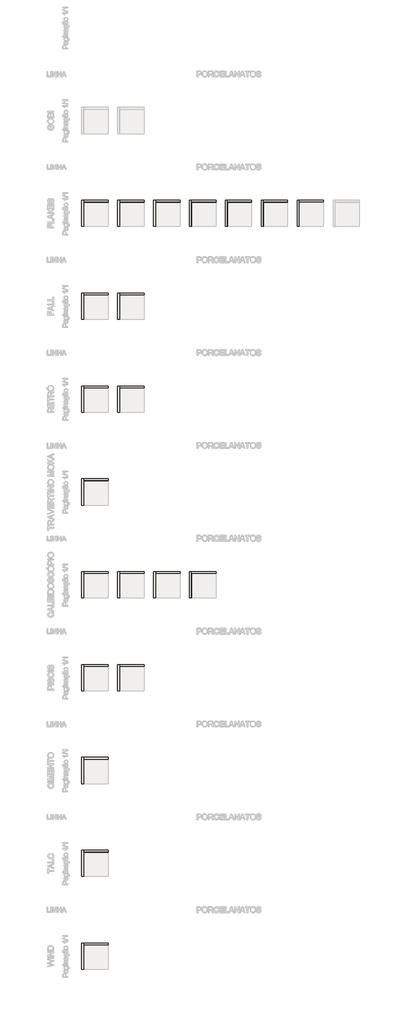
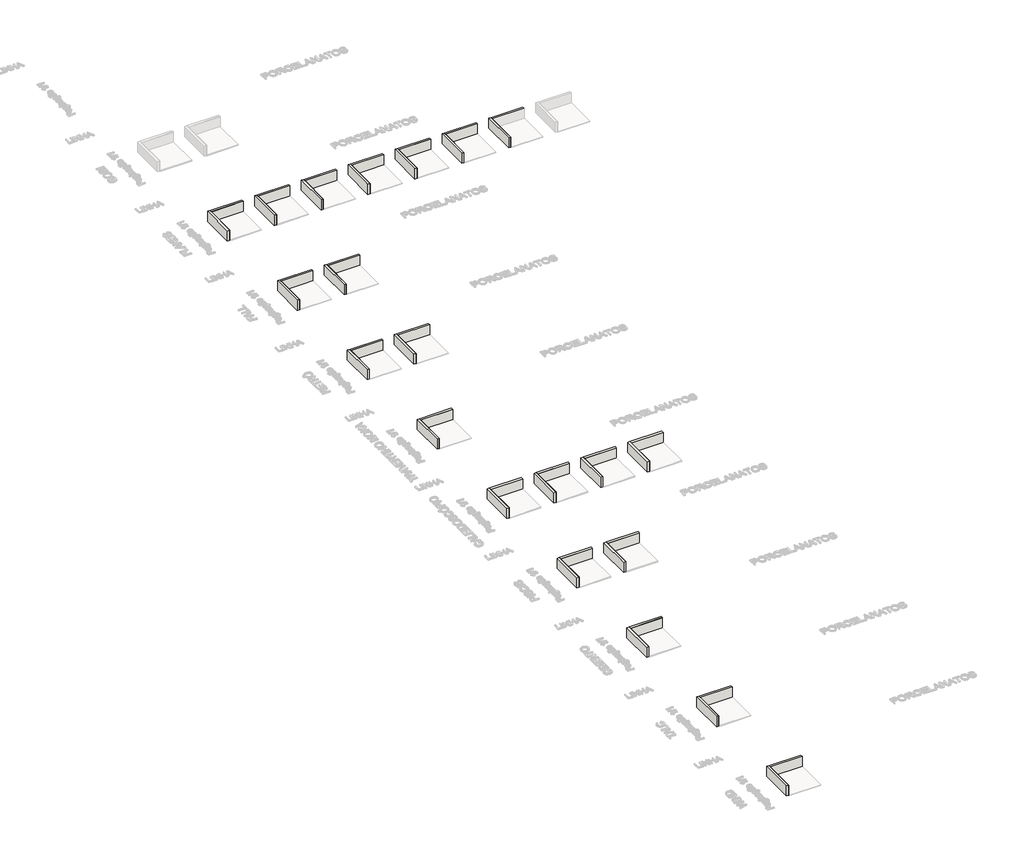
# One storey, part 1 of 17: 83 walls.
"""IFC4 building model written with IfcOpenShell, lengths in millimetres."""

from ifc_helpers import new_model, si_unit, origin, origin_with_axes, place, context, project, spatial, polyline, outline, extrude, faceted_brep, element, save

model = new_model("IFC4")

# Units and contexts
model_context = context("Model", 3, world=origin())
ifc_project = project(units=[si_unit("LENGTHUNIT", "METRE", prefix="MILLI")], contexts=[model_context])

# Site, building, storey
site = spatial("IfcSite", under=ifc_project)
building = spatial("IfcBuilding", under=site)
storey = spatial("IfcBuildingStorey", under=building, Name="Showroom (N.A.)", Elevation=0.0)

# Walls
placement = place(None, origin())
element("IfcWall", 1, ObjectType="Ceusa_Flake_BE_NAT_120X120_Pag-1/1", at=placement, inside=storey, context=model_context, shape_type="Brep", body=[
    faceted_brep([(-107054.0516826, -134932.1766491, 0.0), (-110054.0516826, -134932.1766491, 0.0), (-110054.0516826, -134932.1766491, 1000.0), (-107054.0516826, -134932.1766491, 1000.0), (-107054.0516826, -134946.3766491, 0.0), (-107054.0516826, -134946.3766491, 1000.0), (-110039.8516826, -134946.3766491, 1000.0), (-110054.0516826, -134946.3766491, 1000.0), (-110054.0516826, -134946.3766491, 0.0), (-110039.8516826, -134946.3766491, 0.0)], [[[0, 1, 2, 3]], [[4, 5, 6, 7, 8, 9]], [[1, 0, 4, 9, 8]], [[3, 2, 7, 6, 5]], [[0, 3, 5, 4]], [[2, 1, 8, 7]]]),
])
element("IfcWall", 2, ObjectType="Ceusa_Flake_BE_NAT_120X120_Pag-1/1", at=placement, inside=storey, context=model_context, shape_type="SweptSolid", body=[
    extrude(outline(polyline([(-110054.0516826, -137932.1766491), (-110054.0516826, -134946.3766491), (-110039.8516826, -134946.3766491), (-110039.8516826, -137932.1766491), (-110054.0516826, -137932.1766491)])), origin_with_axes(), (0.0, 0.0, 1.0), 1000.0),
])
element("IfcWall", 3, ObjectType="Ceusa_Flake_BL_NAT_120X120_Pag-1/1", at=placement, inside=storey, context=model_context, shape_type="Brep", body=[
    faceted_brep([(-102654.0516826, -134932.1766491, 0.0), (-105654.0516826, -134932.1766491, 0.0), (-105654.0516826, -134932.1766491, 1000.0), (-102654.0516826, -134932.1766491, 1000.0), (-102654.0516826, -134946.3766491, 0.0), (-102654.0516826, -134946.3766491, 1000.0), (-105639.8516826, -134946.3766491, 1000.0), (-105654.0516826, -134946.3766491, 1000.0), (-105654.0516826, -134946.3766491, 0.0), (-105639.8516826, -134946.3766491, 0.0)], [[[0, 1, 2, 3]], [[4, 5, 6, 7, 8, 9]], [[1, 0, 4, 9, 8]], [[3, 2, 7, 6, 5]], [[0, 3, 5, 4]], [[2, 1, 8, 7]]]),
])
element("IfcWall", 4, ObjectType="Ceusa_Flake_BL_NAT_120X120_Pag-1/1", at=placement, inside=storey, context=model_context, shape_type="SweptSolid", body=[
    extrude(outline(polyline([(-105654.0516826, -137932.1766491), (-105654.0516826, -134946.3766491), (-105639.8516826, -134946.3766491), (-105639.8516826, -137932.1766491), (-105654.0516826, -137932.1766491)])), origin_with_axes(), (0.0, 0.0, 1.0), 1000.0),
])
element("IfcWall", 5, ObjectType="Ceusa_Flake_GN_NAT_120X120_Pag-1/1", at=placement, inside=storey, context=model_context, shape_type="Brep", body=[
    faceted_brep([(-98254.0516826, -134932.1766491, 0.0), (-101254.0516826, -134932.1766491, 0.0), (-101254.0516826, -134932.1766491, 1000.0), (-98254.0516826, -134932.1766491, 1000.0), (-98254.0516826, -134946.3766491, 0.0), (-98254.0516826, -134946.3766491, 1000.0), (-101239.8516826, -134946.3766491, 1000.0), (-101254.0516826, -134946.3766491, 1000.0), (-101254.0516826, -134946.3766491, 0.0), (-101239.8516826, -134946.3766491, 0.0)], [[[0, 1, 2, 3]], [[4, 5, 6, 7, 8, 9]], [[1, 0, 4, 9, 8]], [[3, 2, 7, 6, 5]], [[0, 3, 5, 4]], [[2, 1, 8, 7]]]),
])
element("IfcWall", 6, ObjectType="Ceusa_Flake_GN_NAT_120X120_Pag-1/1", at=placement, inside=storey, context=model_context, shape_type="SweptSolid", body=[
    extrude(outline(polyline([(-101254.0516826, -137932.1766491), (-101254.0516826, -134946.3766491), (-101239.8516826, -134946.3766491), (-101239.8516826, -137932.1766491), (-101254.0516826, -137932.1766491)])), origin_with_axes(), (0.0, 0.0, 1.0), 1000.0),
])
element("IfcWall", 7, ObjectType="Ceusa_Flake_GR_NAT_120X120_Pag-1/1", at=placement, inside=storey, context=model_context, shape_type="Brep", body=[
    faceted_brep([(-93854.0516826, -134932.1766491, 0.0), (-96854.0516826, -134932.1766491, 0.0), (-96854.0516826, -134932.1766491, 1000.0), (-93854.0516826, -134932.1766491, 1000.0), (-93854.0516826, -134946.3766491, 0.0), (-93854.0516826, -134946.3766491, 1000.0), (-96839.8516826, -134946.3766491, 1000.0), (-96854.0516826, -134946.3766491, 1000.0), (-96854.0516826, -134946.3766491, 0.0), (-96839.8516826, -134946.3766491, 0.0)], [[[0, 1, 2, 3]], [[4, 5, 6, 7, 8, 9]], [[1, 0, 4, 9, 8]], [[3, 2, 7, 6, 5]], [[0, 3, 5, 4]], [[2, 1, 8, 7]]]),
])
element("IfcWall", 8, ObjectType="Ceusa_Flake_GR_NAT_120X120_Pag-1/1", at=placement, inside=storey, context=model_context, shape_type="SweptSolid", body=[
    extrude(outline(polyline([(-96854.0516826, -137932.1766491), (-96854.0516826, -134946.3766491), (-96839.8516826, -134946.3766491), (-96839.8516826, -137932.1766491), (-96854.0516826, -137932.1766491)])), origin_with_axes(), (0.0, 0.0, 1.0), 1000.0),
])
element("IfcWall", 9, ObjectType="Ceusa_Flake_MIX_NAT_120X120_Pag-1/1", at=placement, inside=storey, context=model_context, shape_type="Brep", body=[
    faceted_brep([(-89454.0516826, -134932.1766491, 0.0), (-92454.0516826, -134932.1766491, 0.0), (-92454.0516826, -134932.1766491, 1000.0), (-89454.0516826, -134932.1766491, 1000.0), (-89454.0516826, -134946.3766491, 0.0), (-89454.0516826, -134946.3766491, 1000.0), (-92439.8516826, -134946.3766491, 1000.0), (-92454.0516826, -134946.3766491, 1000.0), (-92454.0516826, -134946.3766491, 0.0), (-92439.8516826, -134946.3766491, 0.0)], [[[0, 1, 2, 3]], [[4, 5, 6, 7, 8, 9]], [[1, 0, 4, 9, 8]], [[3, 2, 7, 6, 5]], [[0, 3, 5, 4]], [[2, 1, 8, 7]]]),
])
element("IfcWall", 10, ObjectType="Ceusa_Flake_MIX_NAT_120X120_Pag-1/1", at=placement, inside=storey, context=model_context, shape_type="SweptSolid", body=[
    extrude(outline(polyline([(-92454.0516826, -137932.1766491), (-92454.0516826, -134946.3766491), (-92439.8516826, -134946.3766491), (-92439.8516826, -137932.1766491), (-92454.0516826, -137932.1766491)])), origin_with_axes(), (0.0, 0.0, 1.0), 1000.0),
])
element("IfcWall", 11, ObjectType="Ceusa_Flake_SBE_NAT_120X120_Pag-1/1", at=placement, inside=storey, context=model_context, shape_type="Brep", body=[
    faceted_brep([(-85054.0516826, -134932.1766491, 0.0), (-88054.0516826, -134932.1766491, 0.0), (-88054.0516826, -134932.1766491, 1000.0), (-85054.0516826, -134932.1766491, 1000.0), (-85054.0516826, -134946.3766491, 0.0), (-85054.0516826, -134946.3766491, 1000.0), (-88039.8516826, -134946.3766491, 1000.0), (-88054.0516826, -134946.3766491, 1000.0), (-88054.0516826, -134946.3766491, 0.0), (-88039.8516826, -134946.3766491, 0.0)], [[[0, 1, 2, 3]], [[4, 5, 6, 7, 8, 9]], [[1, 0, 4, 9, 8]], [[3, 2, 7, 6, 5]], [[0, 3, 5, 4]], [[2, 1, 8, 7]]]),
])
element("IfcWall", 12, ObjectType="Ceusa_Flake_SBE_NAT_120X120_Pag-1/1", at=placement, inside=storey, context=model_context, shape_type="SweptSolid", body=[
    extrude(outline(polyline([(-88054.0516826, -137932.1766491), (-88054.0516826, -134946.3766491), (-88039.8516826, -134946.3766491), (-88039.8516826, -137932.1766491), (-88054.0516826, -137932.1766491)])), origin_with_axes(), (0.0, 0.0, 1.0), 1000.0),
])
element("IfcWall", 13, ObjectType="Ceusa_Flake_BE_HARD_120X120_Pag-1/1", at=placement, inside=storey, context=model_context, shape_type="SweptSolid", body=[
    extrude(outline(polyline([(-83654.0516826, -137932.1766491), (-83654.0516826, -134946.3766491), (-83639.8516826, -134946.3766491), (-83639.8516826, -137932.1766491), (-83654.0516826, -137932.1766491)])), origin_with_axes(), (0.0, 0.0, 1.0), 1000.0),
])
element("IfcWall", 14, ObjectType="Ceusa_Fall_GR_NAT_60X120_Pag-1/1", at=placement, inside=storey, context=model_context, shape_type="Brep", body=[
    faceted_brep([(-107054.0516826, -146295.547528, 0.0), (-110054.0516826, -146295.547528, 0.0), (-110054.0516826, -146295.547528, 1000.0), (-107054.0516826, -146295.547528, 1000.0), (-107054.0516826, -146310.547528, 0.0), (-107054.0516826, -146310.547528, 1000.0), (-110039.0516826, -146310.547528, 1000.0), (-110054.0516826, -146310.547528, 1000.0), (-110054.0516826, -146310.547528, 0.0), (-110039.0516826, -146310.547528, 0.0)], [[[0, 1, 2, 3]], [[4, 5, 6, 7, 8, 9]], [[1, 0, 4, 9, 8]], [[3, 2, 7, 6, 5]], [[0, 3, 5, 4]], [[2, 1, 8, 7]]]),
])
element("IfcWall", 15, ObjectType="Ceusa_Fall_GR_NAT_60X120_Pag-1/1", at=placement, inside=storey, context=model_context, shape_type="SweptSolid", body=[
    extrude(outline(polyline([(-110054.0516826, -149295.547528), (-110054.0516826, -146310.547528), (-110039.0516826, -146310.547528), (-110039.0516826, -149295.547528), (-110054.0516826, -149295.547528)])), origin_with_axes(), (0.0, 0.0, 1.0), 1000.0),
])
element("IfcWall", 16, ObjectType="Ceusa_Fall_GR_POL_60X120_Pag-1/1", at=placement, inside=storey, context=model_context, shape_type="Brep", body=[
    faceted_brep([(-102654.0516826, -146295.547528, 0.0), (-105654.0516826, -146295.547528, 0.0), (-105654.0516826, -146295.547528, 1000.0), (-102654.0516826, -146295.547528, 1000.0), (-102654.0516826, -146309.547528, 0.0), (-102654.0516826, -146309.547528, 1000.0), (-105640.0516826, -146309.547528, 1000.0), (-105654.0516826, -146309.547528, 1000.0), (-105654.0516826, -146309.547528, 0.0), (-105640.0516826, -146309.547528, 0.0)], [[[0, 1, 2, 3]], [[4, 5, 6, 7, 8, 9]], [[1, 0, 4, 9, 8]], [[3, 2, 7, 6, 5]], [[0, 3, 5, 4]], [[2, 1, 8, 7]]]),
])
element("IfcWall", 17, ObjectType="Ceusa_Fall_GR_POL_60X120_Pag-1/1", at=placement, inside=storey, context=model_context, shape_type="SweptSolid", body=[
    extrude(outline(polyline([(-105654.0516826, -149295.547528), (-105654.0516826, -146309.547528), (-105640.0516826, -146309.547528), (-105640.0516826, -149295.547528), (-105654.0516826, -149295.547528)])), origin_with_axes(), (0.0, 0.0, 1.0), 1000.0),
])
element("IfcWall", 18, ObjectType="Ceusa_Retrô_BL_NAT_20X20_Pag-1/1", at=placement, inside=storey, context=model_context, shape_type="Brep", body=[
    faceted_brep([(-107054.0516826, -157658.9184068, 0.0), (-110054.0516826, -157658.9184068, 0.0), (-110054.0516826, -157658.9184068, 1000.0), (-107054.0516826, -157658.9184068, 1000.0), (-107054.0516826, -157671.3184068, 0.0), (-107054.0516826, -157671.3184068, 1000.0), (-110041.6516826, -157671.3184068, 1000.0), (-110054.0516826, -157671.3184068, 1000.0), (-110054.0516826, -157671.3184068, 0.0), (-110041.6516826, -157671.3184068, 0.0)], [[[0, 1, 2, 3]], [[4, 5, 6, 7, 8, 9]], [[1, 0, 4, 9, 8]], [[3, 2, 7, 6, 5]], [[0, 3, 5, 4]], [[2, 1, 8, 7]]]),
])
element("IfcWall", 19, ObjectType="Ceusa_Retrô_BL_NAT_20X20_Pag-1/1", at=placement, inside=storey, context=model_context, shape_type="SweptSolid", body=[
    extrude(outline(polyline([(-110054.0516826, -160658.9184068), (-110054.0516826, -157671.3184068), (-110041.6516826, -157671.3184068), (-110041.6516826, -160658.9184068), (-110054.0516826, -160658.9184068)])), origin_with_axes(), (0.0, 0.0, 1.0), 1000.0),
])
element("IfcWall", 20, ObjectType="Ceusa_Retrô_GN_NAT_20X20_Pag-1/1", at=placement, inside=storey, context=model_context, shape_type="Brep", body=[
    faceted_brep([(-102654.0516826, -157658.9184068, 0.0), (-105654.0516826, -157658.9184068, 0.0), (-105654.0516826, -157658.9184068, 1000.0), (-102654.0516826, -157658.9184068, 1000.0), (-102654.0516826, -157671.3184068, 0.0), (-102654.0516826, -157671.3184068, 1000.0), (-105641.6516826, -157671.3184068, 1000.0), (-105654.0516826, -157671.3184068, 1000.0), (-105654.0516826, -157671.3184068, 0.0), (-105641.6516826, -157671.3184068, 0.0)], [[[0, 1, 2, 3]], [[4, 5, 6, 7, 8, 9]], [[1, 0, 4, 9, 8]], [[3, 2, 7, 6, 5]], [[0, 3, 5, 4]], [[2, 1, 8, 7]]]),
])
element("IfcWall", 21, ObjectType="Ceusa_Retrô_GN_NAT_20X20_Pag-1/1", at=placement, inside=storey, context=model_context, shape_type="SweptSolid", body=[
    extrude(outline(polyline([(-105654.0516826, -160658.9184068), (-105654.0516826, -157671.3184068), (-105641.6516826, -157671.3184068), (-105641.6516826, -160658.9184068), (-105654.0516826, -160658.9184068)])), origin_with_axes(), (0.0, 0.0, 1.0), 1000.0),
])
element("IfcWall", 22, ObjectType="Ceusa_Travertino_Moka_BW_NAT_80X160_Pag-1/1", at=placement, inside=storey, context=model_context, shape_type="Brep", body=[
    faceted_brep([(-107054.0516826, -169022.2892857, 0.0), (-110054.0516826, -169022.2892857, 0.0), (-110054.0516826, -169022.2892857, 1000.0), (-107054.0516826, -169022.2892857, 1000.0), (-107054.0516826, -169037.2892857, 0.0), (-107054.0516826, -169037.2892857, 1000.0), (-110039.0516826, -169037.2892857, 1000.0), (-110054.0516826, -169037.2892857, 1000.0), (-110054.0516826, -169037.2892857, 0.0), (-110039.0516826, -169037.2892857, 0.0)], [[[0, 1, 2, 3]], [[4, 5, 6, 7, 8, 9]], [[1, 0, 4, 9, 8]], [[3, 2, 7, 6, 5]], [[0, 3, 5, 4]], [[2, 1, 8, 7]]]),
])
element("IfcWall", 23, ObjectType="Ceusa_Travertino_Moka_BW_NAT_80X160_Pag-1/1", at=placement, inside=storey, context=model_context, shape_type="SweptSolid", body=[
    extrude(outline(polyline([(-110054.0516826, -172022.2892857), (-110054.0516826, -169037.2892857), (-110039.0516826, -169037.2892857), (-110039.0516826, -172022.2892857), (-110054.0516826, -172022.2892857)])), origin_with_axes(), (0.0, 0.0, 1.0), 1000.0),
])
element("IfcWall", 24, ObjectType="Ceusa_Caleidoscópio_HEX_MIX_RD_NAT_17,5X17,5_Pag-1/1", at=placement, inside=storey, context=model_context, shape_type="Brep", body=[
    faceted_brep([(-107054.0516826, -180385.6601645, 0.0), (-110054.0516826, -180385.6601645, 0.0), (-110054.0516826, -180385.6601645, 1000.0), (-107054.0516826, -180385.6601645, 1000.0), (-107054.0516826, -180398.0601645, 0.0), (-107054.0516826, -180398.0601645, 1000.0), (-110041.6516826, -180398.0601645, 1000.0), (-110054.0516826, -180398.0601645, 1000.0), (-110054.0516826, -180398.0601645, 0.0), (-110041.6516826, -180398.0601645, 0.0)], [[[0, 1, 2, 3]], [[4, 5, 6, 7, 8, 9]], [[1, 0, 4, 9, 8]], [[3, 2, 7, 6, 5]], [[0, 3, 5, 4]], [[2, 1, 8, 7]]]),
])
element("IfcWall", 25, ObjectType="Ceusa_Caleidoscópio_HEX_MIX_RD_NAT_17,5X17,5_Pag-1/1", at=placement, inside=storey, context=model_context, shape_type="SweptSolid", body=[
    extrude(outline(polyline([(-110054.0516826, -183385.6601645), (-110054.0516826, -180398.0601645), (-110041.6516826, -180398.0601645), (-110041.6516826, -183385.6601645), (-110054.0516826, -183385.6601645)])), origin_with_axes(), (0.0, 0.0, 1.0), 1000.0),
])
element("IfcWall", 26, ObjectType="Ceusa_Caleidoscópio_HEX_MIX_SGR_NAT_17,5X17,5_Pag-1/1", at=placement, inside=storey, context=model_context, shape_type="Brep", body=[
    faceted_brep([(-102654.0516826, -180385.6601645, 0.0), (-105654.0516826, -180385.6601645, 0.0), (-105654.0516826, -180385.6601645, 1000.0), (-102654.0516826, -180385.6601645, 1000.0), (-102654.0516826, -180398.0601645, 0.0), (-102654.0516826, -180398.0601645, 1000.0), (-105641.6516826, -180398.0601645, 1000.0), (-105654.0516826, -180398.0601645, 1000.0), (-105654.0516826, -180398.0601645, 0.0), (-105641.6516826, -180398.0601645, 0.0)], [[[0, 1, 2, 3]], [[4, 5, 6, 7, 8, 9]], [[1, 0, 4, 9, 8]], [[3, 2, 7, 6, 5]], [[0, 3, 5, 4]], [[2, 1, 8, 7]]]),
])
element("IfcWall", 27, ObjectType="Ceusa_Caleidoscópio_HEX_MIX_SGR_NAT_17,5X17,5_Pag-1/1", at=placement, inside=storey, context=model_context, shape_type="SweptSolid", body=[
    extrude(outline(polyline([(-105654.0516826, -183385.6601645), (-105654.0516826, -180398.0601645), (-105641.6516826, -180398.0601645), (-105641.6516826, -183385.6601645), (-105654.0516826, -183385.6601645)])), origin_with_axes(), (0.0, 0.0, 1.0), 1000.0),
])
element("IfcWall", 28, ObjectType="Ceusa_Caleidoscópio_HEX_RD_NAT_17,5X17,5_Pag-1/1", at=placement, inside=storey, context=model_context, shape_type="Brep", body=[
    faceted_brep([(-98254.0516826, -180385.6601645, 0.0), (-101254.0516826, -180385.6601645, 0.0), (-101254.0516826, -180385.6601645, 1000.0), (-98254.0516826, -180385.6601645, 1000.0), (-98254.0516826, -180398.0601645, 0.0), (-98254.0516826, -180398.0601645, 1000.0), (-101241.6516826, -180398.0601645, 1000.0), (-101254.0516826, -180398.0601645, 1000.0), (-101254.0516826, -180398.0601645, 0.0), (-101241.6516826, -180398.0601645, 0.0)], [[[0, 1, 2, 3]], [[4, 5, 6, 7, 8, 9]], [[1, 0, 4, 9, 8]], [[3, 2, 7, 6, 5]], [[0, 3, 5, 4]], [[2, 1, 8, 7]]]),
])
element("IfcWall", 29, ObjectType="Ceusa_Caleidoscópio_HEX_RD_NAT_17,5X17,5_Pag-1/1", at=placement, inside=storey, context=model_context, shape_type="SweptSolid", body=[
    extrude(outline(polyline([(-101254.0516826, -183385.6601645), (-101254.0516826, -180398.0601645), (-101241.6516826, -180398.0601645), (-101241.6516826, -183385.6601645), (-101254.0516826, -183385.6601645)])), origin_with_axes(), (0.0, 0.0, 1.0), 1000.0),
])
element("IfcWall", 30, ObjectType="Ceusa_Caleidoscópio_HEX_SGR_NAT_17,5X17,5_Pag-1/1", at=placement, inside=storey, context=model_context, shape_type="Brep", body=[
    faceted_brep([(-93854.0516826, -180385.6601645, 0.0), (-96854.0516826, -180385.6601645, 0.0), (-96854.0516826, -180385.6601645, 1000.0), (-93854.0516826, -180385.6601645, 1000.0), (-93854.0516826, -180398.0601645, 0.0), (-93854.0516826, -180398.0601645, 1000.0), (-96841.6516826, -180398.0601645, 1000.0), (-96854.0516826, -180398.0601645, 1000.0), (-96854.0516826, -180398.0601645, 0.0), (-96841.6516826, -180398.0601645, 0.0)], [[[0, 1, 2, 3]], [[4, 5, 6, 7, 8, 9]], [[1, 0, 4, 9, 8]], [[3, 2, 7, 6, 5]], [[0, 3, 5, 4]], [[2, 1, 8, 7]]]),
])
element("IfcWall", 31, ObjectType="Ceusa_Caleidoscópio_HEX_SGR_NAT_17,5X17,5_Pag-1/1", at=placement, inside=storey, context=model_context, shape_type="SweptSolid", body=[
    extrude(outline(polyline([(-96854.0516826, -183385.6601645), (-96854.0516826, -180398.0601645), (-96841.6516826, -180398.0601645), (-96841.6516826, -183385.6601645), (-96854.0516826, -183385.6601645)])), origin_with_axes(), (0.0, 0.0, 1.0), 1000.0),
])
element("IfcWall", 32, ObjectType="Ceusa_Piscis_GN_HARD_15x15_Pag-1/1", at=placement, inside=storey, context=model_context, shape_type="Brep", body=[
    faceted_brep([(-107054.0516826, -191749.0310434, 0.0), (-110054.0516826, -191749.0310434, 0.0), (-110054.0516826, -191749.0310434, 1000.0), (-107054.0516826, -191749.0310434, 1000.0), (-107054.0516826, -191761.4310434, 0.0), (-107054.0516826, -191761.4310434, 1000.0), (-110041.6516826, -191761.4310434, 1000.0), (-110054.0516826, -191761.4310434, 1000.0), (-110054.0516826, -191761.4310434, 0.0), (-110041.6516826, -191761.4310434, 0.0)], [[[0, 1, 2, 3]], [[4, 5, 6, 7, 8, 9]], [[1, 0, 4, 9, 8]], [[3, 2, 7, 6, 5]], [[0, 3, 5, 4]], [[2, 1, 8, 7]]]),
])
element("IfcWall", 33, ObjectType="Ceusa_Piscis_GN_HARD_15x15_Pag-1/1", at=placement, inside=storey, context=model_context, shape_type="SweptSolid", body=[
    extrude(outline(polyline([(-110054.0516826, -194749.0310434), (-110054.0516826, -191761.4310434), (-110041.6516826, -191761.4310434), (-110041.6516826, -194749.0310434), (-110054.0516826, -194749.0310434)])), origin_with_axes(), (0.0, 0.0, 1.0), 1000.0),
])
element("IfcWall", 34, ObjectType="Ceusa_Piscis_GN_NAT_15x15_Pag-1/1", at=placement, inside=storey, context=model_context, shape_type="Brep", body=[
    faceted_brep([(-102654.0516826, -191749.0310434, 0.0), (-105654.0516826, -191749.0310434, 0.0), (-105654.0516826, -191749.0310434, 1000.0), (-102654.0516826, -191749.0310434, 1000.0), (-102654.0516826, -191761.4310434, 0.0), (-102654.0516826, -191761.4310434, 1000.0), (-105641.6516826, -191761.4310434, 1000.0), (-105654.0516826, -191761.4310434, 1000.0), (-105654.0516826, -191761.4310434, 0.0), (-105641.6516826, -191761.4310434, 0.0)], [[[0, 1, 2, 3]], [[4, 5, 6, 7, 8, 9]], [[1, 0, 4, 9, 8]], [[3, 2, 7, 6, 5]], [[0, 3, 5, 4]], [[2, 1, 8, 7]]]),
])
element("IfcWall", 35, ObjectType="Ceusa_Piscis_GN_NAT_15x15_Pag-1/1", at=placement, inside=storey, context=model_context, shape_type="SweptSolid", body=[
    extrude(outline(polyline([(-105654.0516826, -194749.0310434), (-105654.0516826, -191761.4310434), (-105641.6516826, -191761.4310434), (-105641.6516826, -194749.0310434), (-105654.0516826, -194749.0310434)])), origin_with_axes(), (0.0, 0.0, 1.0), 1000.0),
])
element("IfcWall", 36, ObjectType="Ceusa_Cimento_HARD_80x80_Pag-1/1", at=placement, inside=storey, context=model_context, shape_type="Brep", body=[
    faceted_brep([(-107054.0516826, -203112.4019223, 0.0), (-110054.0516826, -203112.4019223, 0.0), (-110054.0516826, -203112.4019223, 1000.0), (-107054.0516826, -203112.4019223, 1000.0), (-107054.0516826, -203126.4019223, 0.0), (-107054.0516826, -203126.4019223, 1000.0), (-110040.0516826, -203126.4019223, 1000.0), (-110054.0516826, -203126.4019223, 1000.0), (-110054.0516826, -203126.4019223, 0.0), (-110040.0516826, -203126.4019223, 0.0)], [[[0, 1, 2, 3]], [[4, 5, 6, 7, 8, 9]], [[1, 0, 4, 9, 8]], [[3, 2, 7, 6, 5]], [[0, 3, 5, 4]], [[2, 1, 8, 7]]]),
])
element("IfcWall", 37, ObjectType="Ceusa_Cimento_HARD_80x80_Pag-1/1", at=placement, inside=storey, context=model_context, shape_type="SweptSolid", body=[
    extrude(outline(polyline([(-110054.0516826, -206112.4019223), (-110054.0516826, -203126.4019223), (-110040.0516826, -203126.4019223), (-110040.0516826, -206112.4019223), (-110054.0516826, -206112.4019223)])), origin_with_axes(), (0.0, 0.0, 1.0), 1000.0),
])
element("IfcWall", 38, ObjectType="Ceusa_Talc_HARD_80x80_Pag-1/1", at=placement, inside=storey, context=model_context, shape_type="Brep", body=[
    faceted_brep([(-107054.0516826, -214475.7728011, 0.0), (-110054.0516826, -214475.7728011, 0.0), (-110054.0516826, -214475.7728011, 1000.0), (-107054.0516826, -214475.7728011, 1000.0), (-107054.0516826, -214489.7728011, 0.0), (-107054.0516826, -214489.7728011, 1000.0), (-110040.0516826, -214489.7728011, 1000.0), (-110054.0516826, -214489.7728011, 1000.0), (-110054.0516826, -214489.7728011, 0.0), (-110040.0516826, -214489.7728011, 0.0)], [[[0, 1, 2, 3]], [[4, 5, 6, 7, 8, 9]], [[1, 0, 4, 9, 8]], [[3, 2, 7, 6, 5]], [[0, 3, 5, 4]], [[2, 1, 8, 7]]]),
])
element("IfcWall", 39, ObjectType="Ceusa_Talc_HARD_80x80_Pag-1/1", at=placement, inside=storey, context=model_context, shape_type="SweptSolid", body=[
    extrude(outline(polyline([(-110054.0516826, -217475.7728011), (-110054.0516826, -214489.7728011), (-110040.0516826, -214489.7728011), (-110040.0516826, -217475.7728011), (-110054.0516826, -217475.7728011)])), origin_with_axes(), (0.0, 0.0, 1.0), 1000.0),
])
element("IfcWall", 40, ObjectType="Ceusa_Wind_HARD_80x80_Pag-1/1", at=placement, inside=storey, context=model_context, shape_type="Brep", body=[
    faceted_brep([(-107054.0516826, -225839.14368, 0.0), (-110054.0516826, -225839.14368, 0.0), (-110054.0516826, -225839.14368, 1000.0), (-107054.0516826, -225839.14368, 1000.0), (-107054.0516826, -225853.14368, 0.0), (-107054.0516826, -225853.14368, 1000.0), (-110040.0516826, -225853.14368, 1000.0), (-110054.0516826, -225853.14368, 1000.0), (-110054.0516826, -225853.14368, 0.0), (-110040.0516826, -225853.14368, 0.0)], [[[0, 1, 2, 3]], [[4, 5, 6, 7, 8, 9]], [[1, 0, 4, 9, 8]], [[3, 2, 7, 6, 5]], [[0, 3, 5, 4]], [[2, 1, 8, 7]]]),
])
element("IfcWall", 41, ObjectType="Ceusa_Wind_HARD_80x80_Pag-1/1", at=placement, inside=storey, context=model_context, shape_type="SweptSolid", body=[
    extrude(outline(polyline([(-110054.0516826, -228839.14368), (-110054.0516826, -225853.14368), (-110040.0516826, -225853.14368), (-110040.0516826, -228839.14368), (-110054.0516826, -228839.14368)])), origin_with_axes(), (0.0, 0.0, 1.0), 1000.0),
])
element("IfcWall", 42, ObjectType="Wall 1", at=placement, inside=storey, context=model_context, shape_type="Brep", body=[
    faceted_brep([(-110054.0516826, -137932.1766491, 0.0), (-110054.0516826, -134932.1766491, 0.0), (-110054.0516826, -134732.1766491, 0.0), (-110054.0516826, -134732.1766491, 1000.0), (-110054.0516826, -134932.1766491, 1000.0), (-110054.0516826, -137932.1766491, 1000.0), (-110254.0516826, -137932.1766491, 0.0), (-110254.0516826, -137932.1766491, 1000.0), (-110254.0516826, -134732.1766491, 1000.0), (-110254.0516826, -134732.1766491, 0.0)], [[[0, 1, 2, 3, 4, 5]], [[6, 7, 8, 9]], [[2, 1, 0, 6, 9]], [[5, 4, 3, 8, 7]], [[0, 5, 7, 6]], [[3, 2, 9, 8]]]),
])
element("IfcWall", 43, ObjectType="Wall 1", at=placement, inside=storey, context=model_context, shape_type="SweptSolid", body=[
    extrude(outline(polyline([(-107054.0516826, -134932.1766491), (-110054.0516826, -134932.1766491), (-110054.0516826, -134732.1766491), (-107054.0516826, -134732.1766491), (-107054.0516826, -134932.1766491)])), origin_with_axes(), (0.0, 0.0, 1.0), 1000.0),
])
element("IfcWall", 44, ObjectType="Wall 1", at=placement, inside=storey, context=model_context, shape_type="Brep", body=[
    faceted_brep([(-105654.0516826, -137932.1766491, 0.0), (-105654.0516826, -134932.1766491, 0.0), (-105654.0516826, -134732.1766491, 0.0), (-105654.0516826, -134732.1766491, 1000.0), (-105654.0516826, -134932.1766491, 1000.0), (-105654.0516826, -137932.1766491, 1000.0), (-105854.0516826, -137932.1766491, 0.0), (-105854.0516826, -137932.1766491, 1000.0), (-105854.0516826, -134732.1766491, 1000.0), (-105854.0516826, -134732.1766491, 0.0)], [[[0, 1, 2, 3, 4, 5]], [[6, 7, 8, 9]], [[2, 1, 0, 6, 9]], [[5, 4, 3, 8, 7]], [[0, 5, 7, 6]], [[3, 2, 9, 8]]]),
])
element("IfcWall", 45, ObjectType="Wall 1", at=placement, inside=storey, context=model_context, shape_type="SweptSolid", body=[
    extrude(outline(polyline([(-102654.0516826, -134932.1766491), (-105654.0516826, -134932.1766491), (-105654.0516826, -134732.1766491), (-102654.0516826, -134732.1766491), (-102654.0516826, -134932.1766491)])), origin_with_axes(), (0.0, 0.0, 1.0), 1000.0),
])
element("IfcWall", 46, ObjectType="Wall 1", at=placement, inside=storey, context=model_context, shape_type="Brep", body=[
    faceted_brep([(-101254.0516826, -137932.1766491, 0.0), (-101254.0516826, -134932.1766491, 0.0), (-101254.0516826, -134732.1766491, 0.0), (-101254.0516826, -134732.1766491, 1000.0), (-101254.0516826, -134932.1766491, 1000.0), (-101254.0516826, -137932.1766491, 1000.0), (-101454.0516826, -137932.1766491, 0.0), (-101454.0516826, -137932.1766491, 1000.0), (-101454.0516826, -134732.1766491, 1000.0), (-101454.0516826, -134732.1766491, 0.0)], [[[0, 1, 2, 3, 4, 5]], [[6, 7, 8, 9]], [[2, 1, 0, 6, 9]], [[5, 4, 3, 8, 7]], [[0, 5, 7, 6]], [[3, 2, 9, 8]]]),
])
element("IfcWall", 47, ObjectType="Wall 1", at=placement, inside=storey, context=model_context, shape_type="SweptSolid", body=[
    extrude(outline(polyline([(-98254.0516826, -134932.1766491), (-101254.0516826, -134932.1766491), (-101254.0516826, -134732.1766491), (-98254.0516826, -134732.1766491), (-98254.0516826, -134932.1766491)])), origin_with_axes(), (0.0, 0.0, 1.0), 1000.0),
])
element("IfcWall", 48, ObjectType="Wall 1", at=placement, inside=storey, context=model_context, shape_type="Brep", body=[
    faceted_brep([(-96854.0516826, -137932.1766491, 0.0), (-96854.0516826, -134932.1766491, 0.0), (-96854.0516826, -134732.1766491, 0.0), (-96854.0516826, -134732.1766491, 1000.0), (-96854.0516826, -134932.1766491, 1000.0), (-96854.0516826, -137932.1766491, 1000.0), (-97054.0516826, -137932.1766491, 0.0), (-97054.0516826, -137932.1766491, 1000.0), (-97054.0516826, -134732.1766491, 1000.0), (-97054.0516826, -134732.1766491, 0.0)], [[[0, 1, 2, 3, 4, 5]], [[6, 7, 8, 9]], [[2, 1, 0, 6, 9]], [[5, 4, 3, 8, 7]], [[0, 5, 7, 6]], [[3, 2, 9, 8]]]),
])
element("IfcWall", 49, ObjectType="Wall 1", at=placement, inside=storey, context=model_context, shape_type="SweptSolid", body=[
    extrude(outline(polyline([(-93854.0516826, -134932.1766491), (-96854.0516826, -134932.1766491), (-96854.0516826, -134732.1766491), (-93854.0516826, -134732.1766491), (-93854.0516826, -134932.1766491)])), origin_with_axes(), (0.0, 0.0, 1.0), 1000.0),
])
element("IfcWall", 50, ObjectType="Wall 1", at=placement, inside=storey, context=model_context, shape_type="Brep", body=[
    faceted_brep([(-92454.0516826, -137932.1766491, 0.0), (-92454.0516826, -134932.1766491, 0.0), (-92454.0516826, -134732.1766491, 0.0), (-92454.0516826, -134732.1766491, 1000.0), (-92454.0516826, -134932.1766491, 1000.0), (-92454.0516826, -137932.1766491, 1000.0), (-92654.0516826, -137932.1766491, 0.0), (-92654.0516826, -137932.1766491, 1000.0), (-92654.0516826, -134732.1766491, 1000.0), (-92654.0516826, -134732.1766491, 0.0)], [[[0, 1, 2, 3, 4, 5]], [[6, 7, 8, 9]], [[2, 1, 0, 6, 9]], [[5, 4, 3, 8, 7]], [[0, 5, 7, 6]], [[3, 2, 9, 8]]]),
])
element("IfcWall", 51, ObjectType="Wall 1", at=placement, inside=storey, context=model_context, shape_type="SweptSolid", body=[
    extrude(outline(polyline([(-89454.0516826, -134932.1766491), (-92454.0516826, -134932.1766491), (-92454.0516826, -134732.1766491), (-89454.0516826, -134732.1766491), (-89454.0516826, -134932.1766491)])), origin_with_axes(), (0.0, 0.0, 1.0), 1000.0),
])
element("IfcWall", 52, ObjectType="Wall 1", at=placement, inside=storey, context=model_context, shape_type="Brep", body=[
    faceted_brep([(-88054.0516826, -137932.1766491, 0.0), (-88054.0516826, -134932.1766491, 0.0), (-88054.0516826, -134732.1766491, 0.0), (-88054.0516826, -134732.1766491, 1000.0), (-88054.0516826, -134932.1766491, 1000.0), (-88054.0516826, -137932.1766491, 1000.0), (-88254.0516826, -137932.1766491, 0.0), (-88254.0516826, -137932.1766491, 1000.0), (-88254.0516826, -134732.1766491, 1000.0), (-88254.0516826, -134732.1766491, 0.0)], [[[0, 1, 2, 3, 4, 5]], [[6, 7, 8, 9]], [[2, 1, 0, 6, 9]], [[5, 4, 3, 8, 7]], [[0, 5, 7, 6]], [[3, 2, 9, 8]]]),
])
element("IfcWall", 53, ObjectType="Wall 1", at=placement, inside=storey, context=model_context, shape_type="SweptSolid", body=[
    extrude(outline(polyline([(-85054.0516826, -134932.1766491), (-88054.0516826, -134932.1766491), (-88054.0516826, -134732.1766491), (-85054.0516826, -134732.1766491), (-85054.0516826, -134932.1766491)])), origin_with_axes(), (0.0, 0.0, 1.0), 1000.0),
])
element("IfcWall", 54, ObjectType="Wall 1", at=placement, inside=storey, context=model_context, shape_type="Brep", body=[
    faceted_brep([(-83654.0516826, -137932.1766491, 0.0), (-83654.0516826, -134932.1766491, 0.0), (-83654.0516826, -134732.1766491, 0.0), (-83654.0516826, -134732.1766491, 1000.0), (-83654.0516826, -134932.1766491, 1000.0), (-83654.0516826, -137932.1766491, 1000.0), (-83854.0516826, -137932.1766491, 0.0), (-83854.0516826, -137932.1766491, 1000.0), (-83854.0516826, -134732.1766491, 1000.0), (-83854.0516826, -134732.1766491, 0.0)], [[[0, 1, 2, 3, 4, 5]], [[6, 7, 8, 9]], [[2, 1, 0, 6, 9]], [[5, 4, 3, 8, 7]], [[0, 5, 7, 6]], [[3, 2, 9, 8]]]),
])
element("IfcWall", 55, ObjectType="Wall 1", at=placement, inside=storey, context=model_context, shape_type="SweptSolid", body=[
    extrude(outline(polyline([(-80654.0516826, -134932.1766491), (-83654.0516826, -134932.1766491), (-83654.0516826, -134732.1766491), (-80654.0516826, -134732.1766491), (-80654.0516826, -134932.1766491)])), origin_with_axes(), (0.0, 0.0, 1.0), 1000.0),
])
element("IfcWall", 56, ObjectType="Wall 1", at=placement, inside=storey, context=model_context, shape_type="Brep", body=[
    faceted_brep([(-110054.0516826, -149295.547528, 0.0), (-110054.0516826, -146295.547528, 0.0), (-110054.0516826, -146095.547528, 0.0), (-110054.0516826, -146095.547528, 1000.0), (-110054.0516826, -146295.547528, 1000.0), (-110054.0516826, -149295.547528, 1000.0), (-110254.0516826, -149295.547528, 0.0), (-110254.0516826, -149295.547528, 1000.0), (-110254.0516826, -146095.547528, 1000.0), (-110254.0516826, -146095.547528, 0.0)], [[[0, 1, 2, 3, 4, 5]], [[6, 7, 8, 9]], [[2, 1, 0, 6, 9]], [[5, 4, 3, 8, 7]], [[0, 5, 7, 6]], [[3, 2, 9, 8]]]),
])
element("IfcWall", 57, ObjectType="Wall 1", at=placement, inside=storey, context=model_context, shape_type="SweptSolid", body=[
    extrude(outline(polyline([(-107054.0516826, -146295.547528), (-110054.0516826, -146295.547528), (-110054.0516826, -146095.547528), (-107054.0516826, -146095.547528), (-107054.0516826, -146295.547528)])), origin_with_axes(), (0.0, 0.0, 1.0), 1000.0),
])
element("IfcWall", 58, ObjectType="Wall 1", at=placement, inside=storey, context=model_context, shape_type="Brep", body=[
    faceted_brep([(-105654.0516826, -149295.547528, 0.0), (-105654.0516826, -146295.547528, 0.0), (-105654.0516826, -146095.547528, 0.0), (-105654.0516826, -146095.547528, 1000.0), (-105654.0516826, -146295.547528, 1000.0), (-105654.0516826, -149295.547528, 1000.0), (-105854.0516826, -149295.547528, 0.0), (-105854.0516826, -149295.547528, 1000.0), (-105854.0516826, -146095.547528, 1000.0), (-105854.0516826, -146095.547528, 0.0)], [[[0, 1, 2, 3, 4, 5]], [[6, 7, 8, 9]], [[2, 1, 0, 6, 9]], [[5, 4, 3, 8, 7]], [[0, 5, 7, 6]], [[3, 2, 9, 8]]]),
])
element("IfcWall", 59, ObjectType="Wall 1", at=placement, inside=storey, context=model_context, shape_type="SweptSolid", body=[
    extrude(outline(polyline([(-102654.0516826, -146295.547528), (-105654.0516826, -146295.547528), (-105654.0516826, -146095.547528), (-102654.0516826, -146095.547528), (-102654.0516826, -146295.547528)])), origin_with_axes(), (0.0, 0.0, 1.0), 1000.0),
])
element("IfcWall", 60, ObjectType="Wall 1", at=placement, inside=storey, context=model_context, shape_type="Brep", body=[
    faceted_brep([(-110054.0516826, -160658.9184068, 0.0), (-110054.0516826, -157658.9184068, 0.0), (-110054.0516826, -157458.9184068, 0.0), (-110054.0516826, -157458.9184068, 1000.0), (-110054.0516826, -157658.9184068, 1000.0), (-110054.0516826, -160658.9184068, 1000.0), (-110254.0516826, -160658.9184068, 0.0), (-110254.0516826, -160658.9184068, 1000.0), (-110254.0516826, -157458.9184068, 1000.0), (-110254.0516826, -157458.9184068, 0.0)], [[[0, 1, 2, 3, 4, 5]], [[6, 7, 8, 9]], [[2, 1, 0, 6, 9]], [[5, 4, 3, 8, 7]], [[0, 5, 7, 6]], [[3, 2, 9, 8]]]),
])
element("IfcWall", 61, ObjectType="Wall 1", at=placement, inside=storey, context=model_context, shape_type="SweptSolid", body=[
    extrude(outline(polyline([(-107054.0516826, -157658.9184068), (-110054.0516826, -157658.9184068), (-110054.0516826, -157458.9184068), (-107054.0516826, -157458.9184068), (-107054.0516826, -157658.9184068)])), origin_with_axes(), (0.0, 0.0, 1.0), 1000.0),
])
element("IfcWall", 62, ObjectType="Wall 1", at=placement, inside=storey, context=model_context, shape_type="Brep", body=[
    faceted_brep([(-105654.0516826, -160658.9184068, 0.0), (-105654.0516826, -157658.9184068, 0.0), (-105654.0516826, -157458.9184068, 0.0), (-105654.0516826, -157458.9184068, 1000.0), (-105654.0516826, -157658.9184068, 1000.0), (-105654.0516826, -160658.9184068, 1000.0), (-105854.0516826, -160658.9184068, 0.0), (-105854.0516826, -160658.9184068, 1000.0), (-105854.0516826, -157458.9184068, 1000.0), (-105854.0516826, -157458.9184068, 0.0)], [[[0, 1, 2, 3, 4, 5]], [[6, 7, 8, 9]], [[2, 1, 0, 6, 9]], [[5, 4, 3, 8, 7]], [[0, 5, 7, 6]], [[3, 2, 9, 8]]]),
])
element("IfcWall", 63, ObjectType="Wall 1", at=placement, inside=storey, context=model_context, shape_type="SweptSolid", body=[
    extrude(outline(polyline([(-102654.0516826, -157658.9184068), (-105654.0516826, -157658.9184068), (-105654.0516826, -157458.9184068), (-102654.0516826, -157458.9184068), (-102654.0516826, -157658.9184068)])), origin_with_axes(), (0.0, 0.0, 1.0), 1000.0),
])
element("IfcWall", 64, ObjectType="Wall 1", at=placement, inside=storey, context=model_context, shape_type="Brep", body=[
    faceted_brep([(-110054.0516826, -172022.2892857, 0.0), (-110054.0516826, -169022.2892857, 0.0), (-110054.0516826, -168822.2892857, 0.0), (-110054.0516826, -168822.2892857, 1000.0), (-110054.0516826, -169022.2892857, 1000.0), (-110054.0516826, -172022.2892857, 1000.0), (-110254.0516826, -172022.2892857, 0.0), (-110254.0516826, -172022.2892857, 1000.0), (-110254.0516826, -168822.2892857, 1000.0), (-110254.0516826, -168822.2892857, 0.0)], [[[0, 1, 2, 3, 4, 5]], [[6, 7, 8, 9]], [[2, 1, 0, 6, 9]], [[5, 4, 3, 8, 7]], [[0, 5, 7, 6]], [[3, 2, 9, 8]]]),
])
element("IfcWall", 65, ObjectType="Wall 1", at=placement, inside=storey, context=model_context, shape_type="SweptSolid", body=[
    extrude(outline(polyline([(-107054.0516826, -169022.2892857), (-110054.0516826, -169022.2892857), (-110054.0516826, -168822.2892857), (-107054.0516826, -168822.2892857), (-107054.0516826, -169022.2892857)])), origin_with_axes(), (0.0, 0.0, 1.0), 1000.0),
])
element("IfcWall", 66, ObjectType="Wall 1", at=placement, inside=storey, context=model_context, shape_type="Brep", body=[
    faceted_brep([(-110054.0516826, -183385.6601645, 0.0), (-110054.0516826, -180385.6601645, 0.0), (-110054.0516826, -180185.6601645, 0.0), (-110054.0516826, -180185.6601645, 1000.0), (-110054.0516826, -180385.6601645, 1000.0), (-110054.0516826, -183385.6601645, 1000.0), (-110254.0516826, -183385.6601645, 0.0), (-110254.0516826, -183385.6601645, 1000.0), (-110254.0516826, -180185.6601645, 1000.0), (-110254.0516826, -180185.6601645, 0.0)], [[[0, 1, 2, 3, 4, 5]], [[6, 7, 8, 9]], [[2, 1, 0, 6, 9]], [[5, 4, 3, 8, 7]], [[0, 5, 7, 6]], [[3, 2, 9, 8]]]),
])
element("IfcWall", 67, ObjectType="Wall 1", at=placement, inside=storey, context=model_context, shape_type="SweptSolid", body=[
    extrude(outline(polyline([(-107054.0516826, -180385.6601645), (-110054.0516826, -180385.6601645), (-110054.0516826, -180185.6601645), (-107054.0516826, -180185.6601645), (-107054.0516826, -180385.6601645)])), origin_with_axes(), (0.0, 0.0, 1.0), 1000.0),
])
element("IfcWall", 68, ObjectType="Wall 1", at=placement, inside=storey, context=model_context, shape_type="Brep", body=[
    faceted_brep([(-105654.0516826, -183385.6601645, 0.0), (-105654.0516826, -180385.6601645, 0.0), (-105654.0516826, -180185.6601645, 0.0), (-105654.0516826, -180185.6601645, 1000.0), (-105654.0516826, -180385.6601645, 1000.0), (-105654.0516826, -183385.6601645, 1000.0), (-105854.0516826, -183385.6601645, 0.0), (-105854.0516826, -183385.6601645, 1000.0), (-105854.0516826, -180185.6601645, 1000.0), (-105854.0516826, -180185.6601645, 0.0)], [[[0, 1, 2, 3, 4, 5]], [[6, 7, 8, 9]], [[2, 1, 0, 6, 9]], [[5, 4, 3, 8, 7]], [[0, 5, 7, 6]], [[3, 2, 9, 8]]]),
])
element("IfcWall", 69, ObjectType="Wall 1", at=placement, inside=storey, context=model_context, shape_type="SweptSolid", body=[
    extrude(outline(polyline([(-102654.0516826, -180385.6601645), (-105654.0516826, -180385.6601645), (-105654.0516826, -180185.6601645), (-102654.0516826, -180185.6601645), (-102654.0516826, -180385.6601645)])), origin_with_axes(), (0.0, 0.0, 1.0), 1000.0),
])
element("IfcWall", 70, ObjectType="Wall 1", at=placement, inside=storey, context=model_context, shape_type="Brep", body=[
    faceted_brep([(-101254.0516826, -183385.6601645, 0.0), (-101254.0516826, -180385.6601645, 0.0), (-101254.0516826, -180185.6601645, 0.0), (-101254.0516826, -180185.6601645, 1000.0), (-101254.0516826, -180385.6601645, 1000.0), (-101254.0516826, -183385.6601645, 1000.0), (-101454.0516826, -183385.6601645, 0.0), (-101454.0516826, -183385.6601645, 1000.0), (-101454.0516826, -180185.6601645, 1000.0), (-101454.0516826, -180185.6601645, 0.0)], [[[0, 1, 2, 3, 4, 5]], [[6, 7, 8, 9]], [[2, 1, 0, 6, 9]], [[5, 4, 3, 8, 7]], [[0, 5, 7, 6]], [[3, 2, 9, 8]]]),
])
element("IfcWall", 71, ObjectType="Wall 1", at=placement, inside=storey, context=model_context, shape_type="SweptSolid", body=[
    extrude(outline(polyline([(-98254.0516826, -180385.6601645), (-101254.0516826, -180385.6601645), (-101254.0516826, -180185.6601645), (-98254.0516826, -180185.6601645), (-98254.0516826, -180385.6601645)])), origin_with_axes(), (0.0, 0.0, 1.0), 1000.0),
])
element("IfcWall", 72, ObjectType="Wall 1", at=placement, inside=storey, context=model_context, shape_type="Brep", body=[
    faceted_brep([(-96854.0516826, -183385.6601645, 0.0), (-96854.0516826, -180385.6601645, 0.0), (-96854.0516826, -180185.6601645, 0.0), (-96854.0516826, -180185.6601645, 1000.0), (-96854.0516826, -180385.6601645, 1000.0), (-96854.0516826, -183385.6601645, 1000.0), (-97054.0516826, -183385.6601645, 0.0), (-97054.0516826, -183385.6601645, 1000.0), (-97054.0516826, -180185.6601645, 1000.0), (-97054.0516826, -180185.6601645, 0.0)], [[[0, 1, 2, 3, 4, 5]], [[6, 7, 8, 9]], [[2, 1, 0, 6, 9]], [[5, 4, 3, 8, 7]], [[0, 5, 7, 6]], [[3, 2, 9, 8]]]),
])
element("IfcWall", 73, ObjectType="Wall 1", at=placement, inside=storey, context=model_context, shape_type="SweptSolid", body=[
    extrude(outline(polyline([(-93854.0516826, -180385.6601645), (-96854.0516826, -180385.6601645), (-96854.0516826, -180185.6601645), (-93854.0516826, -180185.6601645), (-93854.0516826, -180385.6601645)])), origin_with_axes(), (0.0, 0.0, 1.0), 1000.0),
])
element("IfcWall", 74, ObjectType="Wall 1", at=placement, inside=storey, context=model_context, shape_type="Brep", body=[
    faceted_brep([(-110054.0516826, -194749.0310434, 0.0), (-110054.0516826, -191749.0310434, 0.0), (-110054.0516826, -191549.0310434, 0.0), (-110054.0516826, -191549.0310434, 1000.0), (-110054.0516826, -191749.0310434, 1000.0), (-110054.0516826, -194749.0310434, 1000.0), (-110254.0516826, -194749.0310434, 0.0), (-110254.0516826, -194749.0310434, 1000.0), (-110254.0516826, -191549.0310434, 1000.0), (-110254.0516826, -191549.0310434, 0.0)], [[[0, 1, 2, 3, 4, 5]], [[6, 7, 8, 9]], [[2, 1, 0, 6, 9]], [[5, 4, 3, 8, 7]], [[0, 5, 7, 6]], [[3, 2, 9, 8]]]),
])
element("IfcWall", 75, ObjectType="Wall 1", at=placement, inside=storey, context=model_context, shape_type="SweptSolid", body=[
    extrude(outline(polyline([(-107054.0516826, -191749.0310434), (-110054.0516826, -191749.0310434), (-110054.0516826, -191549.0310434), (-107054.0516826, -191549.0310434), (-107054.0516826, -191749.0310434)])), origin_with_axes(), (0.0, 0.0, 1.0), 1000.0),
])
element("IfcWall", 76, ObjectType="Wall 1", at=placement, inside=storey, context=model_context, shape_type="Brep", body=[
    faceted_brep([(-105654.0516826, -194749.0310434, 0.0), (-105654.0516826, -191749.0310434, 0.0), (-105654.0516826, -191549.0310434, 0.0), (-105654.0516826, -191549.0310434, 1000.0), (-105654.0516826, -191749.0310434, 1000.0), (-105654.0516826, -194749.0310434, 1000.0), (-105854.0516826, -194749.0310434, 0.0), (-105854.0516826, -194749.0310434, 1000.0), (-105854.0516826, -191549.0310434, 1000.0), (-105854.0516826, -191549.0310434, 0.0)], [[[0, 1, 2, 3, 4, 5]], [[6, 7, 8, 9]], [[2, 1, 0, 6, 9]], [[5, 4, 3, 8, 7]], [[0, 5, 7, 6]], [[3, 2, 9, 8]]]),
])
element("IfcWall", 77, ObjectType="Wall 1", at=placement, inside=storey, context=model_context, shape_type="SweptSolid", body=[
    extrude(outline(polyline([(-102654.0516826, -191749.0310434), (-105654.0516826, -191749.0310434), (-105654.0516826, -191549.0310434), (-102654.0516826, -191549.0310434), (-102654.0516826, -191749.0310434)])), origin_with_axes(), (0.0, 0.0, 1.0), 1000.0),
])
element("IfcWall", 78, ObjectType="Wall 1", at=placement, inside=storey, context=model_context, shape_type="Brep", body=[
    faceted_brep([(-110054.0516826, -206112.4019223, 0.0), (-110054.0516826, -203112.4019223, 0.0), (-110054.0516826, -202912.4019223, 0.0), (-110054.0516826, -202912.4019223, 1000.0), (-110054.0516826, -203112.4019223, 1000.0), (-110054.0516826, -206112.4019223, 1000.0), (-110254.0516826, -206112.4019223, 0.0), (-110254.0516826, -206112.4019223, 1000.0), (-110254.0516826, -202912.4019223, 1000.0), (-110254.0516826, -202912.4019223, 0.0)], [[[0, 1, 2, 3, 4, 5]], [[6, 7, 8, 9]], [[2, 1, 0, 6, 9]], [[5, 4, 3, 8, 7]], [[0, 5, 7, 6]], [[3, 2, 9, 8]]]),
])
element("IfcWall", 79, ObjectType="Wall 1", at=placement, inside=storey, context=model_context, shape_type="SweptSolid", body=[
    extrude(outline(polyline([(-107054.0516826, -203112.4019223), (-110054.0516826, -203112.4019223), (-110054.0516826, -202912.4019223), (-107054.0516826, -202912.4019223), (-107054.0516826, -203112.4019223)])), origin_with_axes(), (0.0, 0.0, 1.0), 1000.0),
])
element("IfcWall", 80, ObjectType="Wall 1", at=placement, inside=storey, context=model_context, shape_type="Brep", body=[
    faceted_brep([(-110054.0516826, -217475.7728011, 0.0), (-110054.0516826, -214475.7728011, 0.0), (-110054.0516826, -214275.7728011, 0.0), (-110054.0516826, -214275.7728011, 1000.0), (-110054.0516826, -214475.7728011, 1000.0), (-110054.0516826, -217475.7728011, 1000.0), (-110254.0516826, -217475.7728011, 0.0), (-110254.0516826, -217475.7728011, 1000.0), (-110254.0516826, -214275.7728011, 1000.0), (-110254.0516826, -214275.7728011, 0.0)], [[[0, 1, 2, 3, 4, 5]], [[6, 7, 8, 9]], [[2, 1, 0, 6, 9]], [[5, 4, 3, 8, 7]], [[0, 5, 7, 6]], [[3, 2, 9, 8]]]),
])
element("IfcWall", 81, ObjectType="Wall 1", at=placement, inside=storey, context=model_context, shape_type="SweptSolid", body=[
    extrude(outline(polyline([(-107054.0516826, -214475.7728011), (-110054.0516826, -214475.7728011), (-110054.0516826, -214275.7728011), (-107054.0516826, -214275.7728011), (-107054.0516826, -214475.7728011)])), origin_with_axes(), (0.0, 0.0, 1.0), 1000.0),
])
element("IfcWall", 82, ObjectType="Wall 1", at=placement, inside=storey, context=model_context, shape_type="Brep", body=[
    faceted_brep([(-110054.0516826, -228839.14368, 0.0), (-110054.0516826, -225839.14368, 0.0), (-110054.0516826, -225639.14368, 0.0), (-110054.0516826, -225639.14368, 1000.0), (-110054.0516826, -225839.14368, 1000.0), (-110054.0516826, -228839.14368, 1000.0), (-110254.0516826, -228839.14368, 0.0), (-110254.0516826, -228839.14368, 1000.0), (-110254.0516826, -225639.14368, 1000.0), (-110254.0516826, -225639.14368, 0.0)], [[[0, 1, 2, 3, 4, 5]], [[6, 7, 8, 9]], [[2, 1, 0, 6, 9]], [[5, 4, 3, 8, 7]], [[0, 5, 7, 6]], [[3, 2, 9, 8]]]),
])
element("IfcWall", 83, ObjectType="Wall 1", at=placement, inside=storey, context=model_context, shape_type="SweptSolid", body=[
    extrude(outline(polyline([(-107054.0516826, -225839.14368), (-110054.0516826, -225839.14368), (-110054.0516826, -225639.14368), (-107054.0516826, -225639.14368), (-107054.0516826, -225839.14368)])), origin_with_axes(), (0.0, 0.0, 1.0), 1000.0),
])

save(model, "model.ifc")
